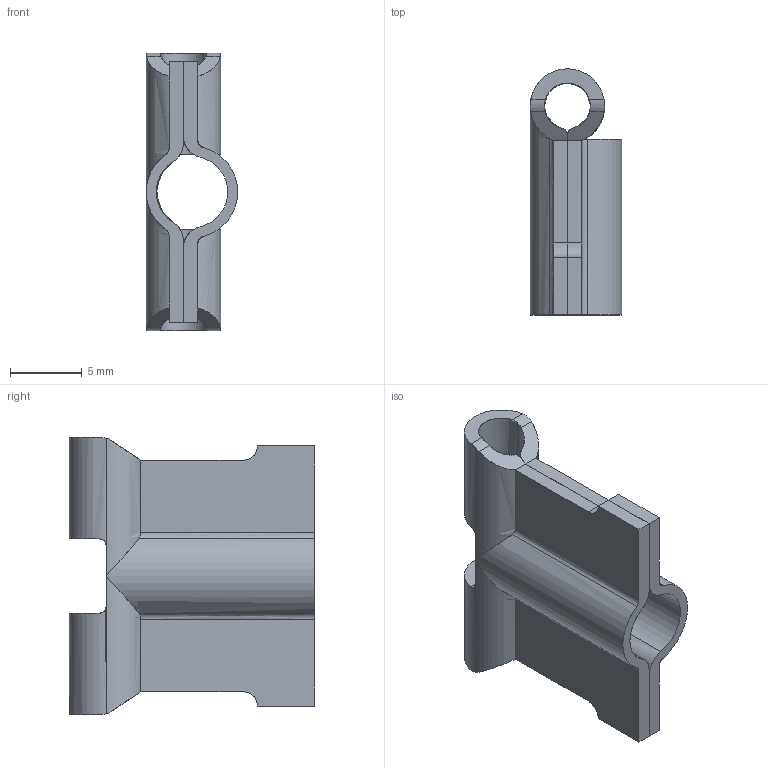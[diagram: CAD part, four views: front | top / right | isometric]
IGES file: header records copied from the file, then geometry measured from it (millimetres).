
Start section: SolidWorks IGES FILE using analytic representation for surfaces
Global section: file name: C:\Documents and Settings\lecoutey\Bureau\GR 62\62.060.00.IGS; native system: SolidWorks 2004 by SolidWorks Corporation; preprocessor: Version 5.3; author: lecoutey; date: 050330.160235; units: millimetre
Bounding box: 6.4 x 17.2 x 19.4 mm (x, y, z)
Surface area: 1435.2 mm2 (no closed solid volume)
Topology: 0 solids, 0 shells, 132 faces, 1029 edges, 965 vertices
Faces by surface type: revolution 98, bspline 34
